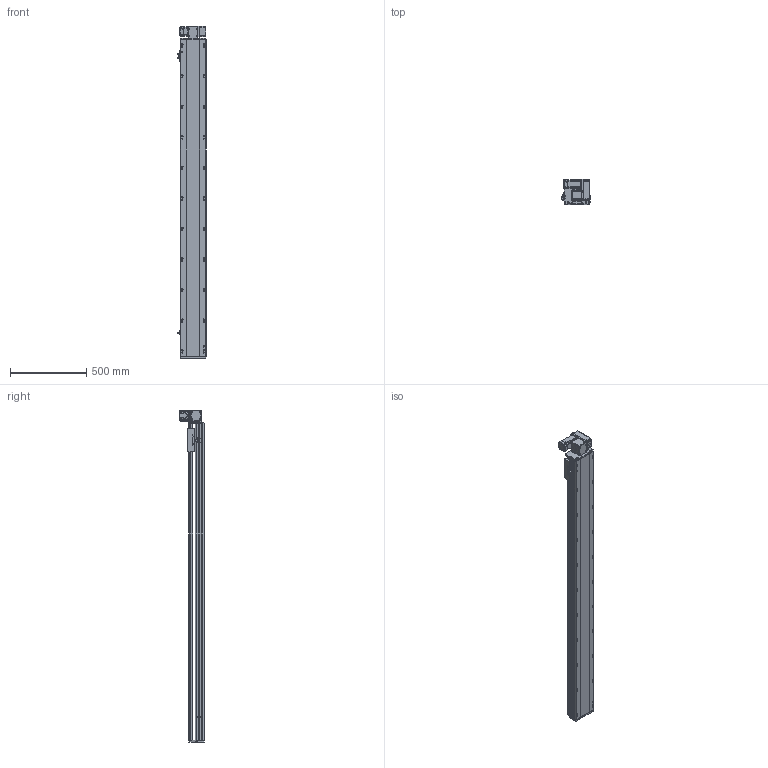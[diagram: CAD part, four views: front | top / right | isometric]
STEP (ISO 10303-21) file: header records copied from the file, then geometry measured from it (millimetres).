
FILE_DESCRIPTION (( 'STEP AP214' ), '1' );
FILE_NAME ('RTB17S-XX-1800-RW-M40-C4.STEP', '2025-12-11T09:06:28', ( '' ), ( '' ), 'SwSTEP 2.0', 'SolidWorks 2018', '' );
FILE_SCHEMA (( 'AUTOMOTIVE_DESIGN' ));
Length unit declared in the file: millimetre
Products named in the file (14): RTB17S-L-004佪裝蹟譫蟀諉釱^RTB17S-XX-XX-RW-M40-C4; RTB14-L-017P^RTB17S-RW-々湍釱蚾饜-400W_RTB17S-XX-XX-RW-M40-C4; OMRON EE-SX672 传感器^RTB17S-XX-XX-RW-M40-C4; RTB17S-XX-1800-RW-M40-C4; 400W侜督萇儂^RTB17S-XX-XX-RW-M40-C4; RTB17S-L-001耜醱啣^RTB17S-XX-XX-RW-M40-C4; RTB17S-RW-々湍釱蚾饜-400W^RTB17S-XX-XX-RW-M40-C4; RTB17S-L-007奻裔^RTB17S-XX-XX-RW-M40-C4; RTB14-L-008-M20--萇儂啣^RTB17S-RW-々湍釱蚾饜-400W_RTB17S-XX-XX-RW-M40-C4; RTB17-R-011菁釱^RTB17S-XX-XX-RW-M40-C4; RTB14-L-018P^RTB17S-RW-々湍釱蚾饜-400W_RTB17S-XX-XX-RW-M40-C4; RTH13-BL-012覜茼え俋离^RTB17S-XX-XX-RW-M40-C4; RTB14-L-005P--轴承塑胶压盖^RTB17S-RW-皮带座装配-400W_RTB17S-XX-XX-RW-M40-C4; RMP17S-L-014-T20--々湍釱^RTB17S-RW-々湍釱蚾饜-400W_RTB17S-XX-XX-RW-M40-C4
Assembly tree (16 placements, depth 3):
  RTB17S-XX-1800-RW-M40-C4
    RTB17-R-011菁釱^RTB17S-XX-XX-RW-M40-C4
    RTB17S-L-007奻裔^RTB17S-XX-XX-RW-M40-C4
    OMRON EE-SX672 传感器^RTB17S-XX-XX-RW-M40-C4  x3
    RTB17S-L-001耜醱啣^RTB17S-XX-XX-RW-M40-C4
    400W侜督萇儂^RTB17S-XX-XX-RW-M40-C4
    RTB17S-L-004佪裝蹟譫蟀諉釱^RTB17S-XX-XX-RW-M40-C4
    RTH13-BL-012覜茼え俋离^RTB17S-XX-XX-RW-M40-C4
    RTB17S-RW-々湍釱蚾饜-400W^RTB17S-XX-XX-RW-M40-C4
      RMP17S-L-014-T20--々湍釱^RTB17S-RW-々湍釱蚾饜-400W_RTB17S-XX-XX-RW-M40-C4
      RTB14-L-005P--轴承塑胶压盖^RTB17S-RW-皮带座装配-400W_RTB17S-XX-XX-RW-M40-C4
      RTB14-L-008-M20--萇儂啣^RTB17S-RW-々湍釱蚾饜-400W_RTB17S-XX-XX-RW-M40-C4
      RTB14-L-017P^RTB17S-RW-々湍釱蚾饜-400W_RTB17S-XX-XX-RW-M40-C4  x2
      RTB14-L-018P^RTB17S-RW-々湍釱蚾饜-400W_RTB17S-XX-XX-RW-M40-C4
Bounding box: 183.5 x 160.5 x 2172.5 mm (x, y, z)
Volume: 18900911 mm3; surface area: 2208598.6 mm2
Topology: 15 solids, 15 shells, 2269 faces, 6303 edges, 4113 vertices
Faces by surface type: plane 1076, cylinder 745, bspline 301, cone 139, torus 8
Entity records: 65705 total; most frequent: CARTESIAN_POINT 18508, ORIENTED_EDGE 9450, DIRECTION 8756, EDGE_CURVE 4725, VERTEX_POINT 3101, AXIS2_PLACEMENT_3D 3031, LINE 2694, VECTOR 2694
